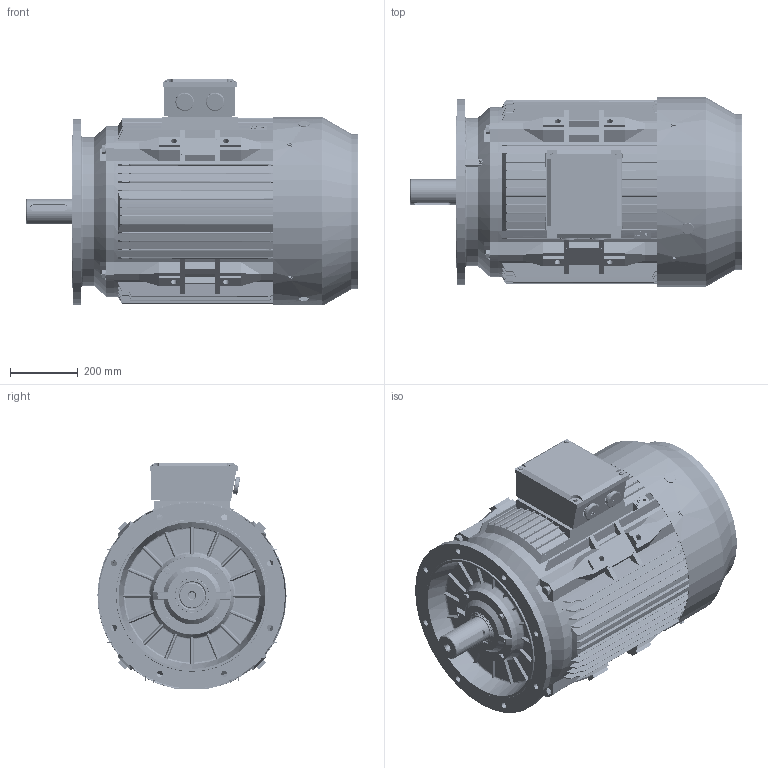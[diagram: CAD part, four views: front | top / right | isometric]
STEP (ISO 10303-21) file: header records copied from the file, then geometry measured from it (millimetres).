
FILE_DESCRIPTION (( 'STEP AP203' ), '1' );
FILE_NAME ('TC 280S B5 外形图.STEP', '2014-12-11T08:29:13', ( '微软用户' ), ( '微软中国' ), 'SwSTEP 2.0', 'SolidWorks 2008', '' );
FILE_SCHEMA (( 'CONFIG_CONTROL_DESIGN' ));
Products named in the file (22): TC 280 轴承外盖DE_默认; TC 280 轴承外盖NDE_默认; M16-50_默认; TC 280 风罩_默认; M10-80_默认; 螺塞M50_默认; 扣塞_默认; TC 280S B5 俋倛芞; TC 280S B5机座_默认; TC280 B3后端盖(170)_默认; TC 280 B5法兰_默认; TC 280S-4 转子_默认; TC 280S-4P转轴_默认; 6316_默认; 油封80-100-10_默认; 10_默认; 16_默认; M8-12_默认; M8-20_默认; 铜油嘴_默认; TC 250-280S接线盒座_默认; TC 250-280S接线盒盖_默认
Assembly tree (41 placements, depth 3):
  TC 280S B5 俋倛芞
    M8-20_默认  x4
    16_默认  x4
    TC 280S B5机座_默认
    TC280 B3后端盖(170)_默认
    M8-12_默认  x4
    M10-80_默认  x4
    TC 280 轴承外盖DE_默认
    M16-50_默认  x4
    TC 250-280S接线盒盖_默认
    扣塞_默认
    TC 280S-4 转子_默认
      TC 280S-4P转轴_默认
      6316_默认  x2
    10_默认  x4
    TC 280 B5法兰_默认
    铜油嘴_默认
    TC 280 风罩_默认
    TC 250-280S接线盒座_默认
    TC 280 轴承外盖NDE_默认
    油封80-100-10_默认
    螺塞M50_默认  x2
Bounding box: 981.2 x 559 x 666.18 mm (x, y, z)
Volume: 35247981.5 mm3; surface area: 6680156.1 mm2
Topology: 41 solids, 42 shells, 9835 faces, 28826 edges, 19073 vertices
Faces by surface type: plane 4908, cylinder 4201, cone 318, torus 231, bspline 115, sphere 62
Entity records: 330847 total; most frequent: CARTESIAN_POINT 72826, ORIENTED_EDGE 54336, DIRECTION 52744, EDGE_CURVE 27168, VERTEX_POINT 18016, AXIS2_PLACEMENT_3D 17962, LINE 16820, VECTOR 16820
